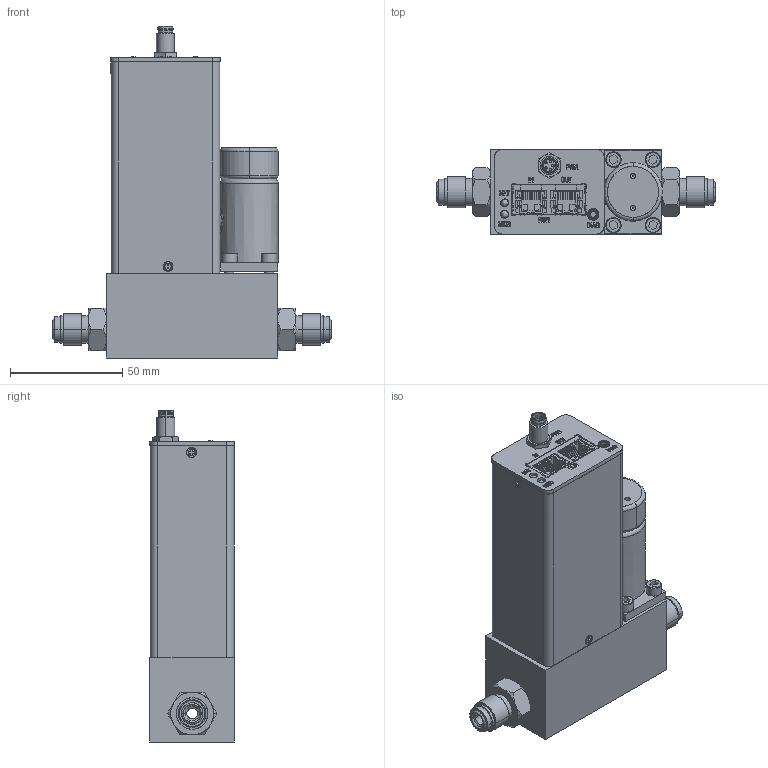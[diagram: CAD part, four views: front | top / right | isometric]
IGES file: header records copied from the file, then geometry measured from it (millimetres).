
Start section: SolidWorks IGES file using analytic representation for surfaces
Global section: file name: G:\Engineering\CAD MODELS FOR SALES\CAD MODEL STORAGE\SLA\SLA5850\IGES\SLA5850-E-1E-1-A-REVB.IGS; native system: SolidWorks 2020; preprocessor: SolidWorks 2020; author: SThen; date: 230629.134856; units: inch
Bounding box: 124.1 x 37.86 x 147.97 mm (x, y, z)
Surface area: 89870 mm2 (no closed solid volume)
Topology: 0 solids, 0 shells, 4013 faces, 31586 edges, 31578 vertices
Faces by surface type: bspline 3102, revolution 911
